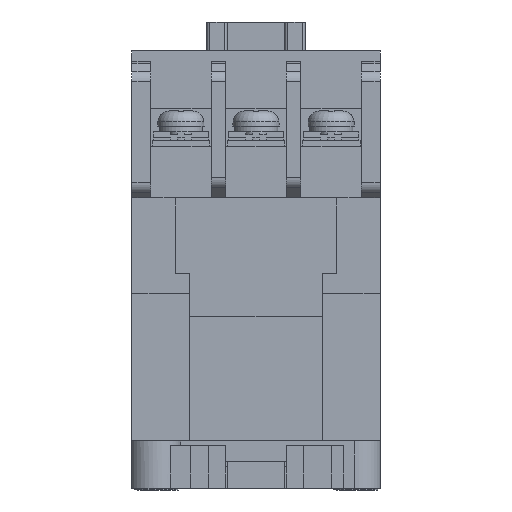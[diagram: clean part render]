
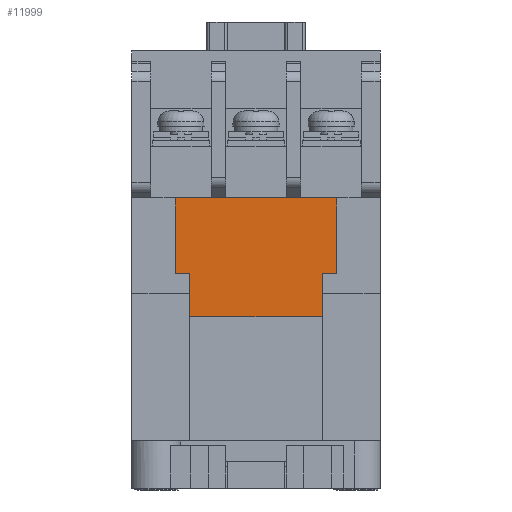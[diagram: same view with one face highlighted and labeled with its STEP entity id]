
A CAD part, front view. The second image highlights one B-rep face of the part: STEP entity #11999.
In plain terms, the highlighted planar face has unit normal (0, -1, 0).
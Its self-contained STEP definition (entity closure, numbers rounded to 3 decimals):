
#252 = VERTEX_POINT ( 'NONE', #14970 ) ;
#457 = LINE ( 'NONE', #21367, #3891 ) ;
#1327 = CARTESIAN_POINT ( 'NONE',  ( 11.5, -31.7, 32.45 ) ) ;
#1397 = VECTOR ( 'NONE', #4992, 1000. ) ;
#1469 = VECTOR ( 'NONE', #20368, 1000. ) ;
#1507 = DIRECTION ( 'NONE',  ( 0., -1., 0. ) ) ;
#1808 = VECTOR ( 'NONE', #5072, 1000. ) ;
#1819 = LINE ( 'NONE', #22755, #1469 ) ;
#2245 = EDGE_CURVE ( 'NONE', #16846, #252, #457, .T. ) ;
#2746 = VERTEX_POINT ( 'NONE', #20924 ) ;
#2990 = VECTOR ( 'NONE', #16144, 1000. ) ;
#3780 = ORIENTED_EDGE ( 'NONE', *, *, #8829, .T. ) ;
#3891 = VECTOR ( 'NONE', #18993, 1000. ) ;
#3905 = CARTESIAN_POINT ( 'NONE',  ( -11.5, -31.7, 24.95 ) ) ;
#4020 = AXIS2_PLACEMENT_3D ( 'NONE', #3905, #1507, #22447 ) ;
#4025 = DIRECTION ( 'NONE',  ( 1., 0., 0. ) ) ;
#4050 = ORIENTED_EDGE ( 'NONE', *, *, #18588, .F. ) ;
#4761 = LINE ( 'NONE', #18540, #2990 ) ;
#4992 = DIRECTION ( 'NONE',  ( 1., 0., 0. ) ) ;
#5072 = DIRECTION ( 'NONE',  ( 0., 0., -1. ) ) ;
#5832 = FACE_OUTER_BOUND ( 'NONE', #11949, .T. ) ;
#6267 = ORIENTED_EDGE ( 'NONE', *, *, #8363, .T. ) ;
#6299 = PLANE ( 'NONE',  #4020 ) ;
#6421 = CARTESIAN_POINT ( 'NONE',  ( -11.5, -31.7, 45.55 ) ) ;
#6738 = VECTOR ( 'NONE', #17786, 1000. ) ;
#7388 = CARTESIAN_POINT ( 'NONE',  ( -13.95, -31.7, 32.45 ) ) ;
#7470 = CARTESIAN_POINT ( 'NONE',  ( 11.5, -31.7, 24.95 ) ) ;
#8363 = EDGE_CURVE ( 'NONE', #2746, #13771, #1819, .T. ) ;
#8783 = CARTESIAN_POINT ( 'NONE',  ( 13.95, -31.7, 45.55 ) ) ;
#8806 = LINE ( 'NONE', #6421, #19160 ) ;
#8829 = EDGE_CURVE ( 'NONE', #13771, #18448, #4761, .T. ) ;
#8940 = VECTOR ( 'NONE', #17207, 1000. ) ;
#9021 = ORIENTED_EDGE ( 'NONE', *, *, #22513, .F. ) ;
#9868 = LINE ( 'NONE', #7470, #1808 ) ;
#11949 = EDGE_LOOP ( 'NONE', ( #15007, #18692, #4050, #9021, #22656, #16696, #6267, #3780 ) ) ;
#11999 = ADVANCED_FACE ( 'NONE', ( #5832 ), #6299, .T. ) ;
#12175 = LINE ( 'NONE', #7388, #1397 ) ;
#12394 = CARTESIAN_POINT ( 'NONE',  ( -11.5, -31.7, 24.95 ) ) ;
#12752 = CARTESIAN_POINT ( 'NONE',  ( 11.5, -31.7, 24.95 ) ) ;
#13095 = EDGE_CURVE ( 'NONE', #22740, #18448, #9868, .T. ) ;
#13771 = VERTEX_POINT ( 'NONE', #12394 ) ;
#14970 = CARTESIAN_POINT ( 'NONE',  ( -13.95, -31.7, 32.45 ) ) ;
#15007 = ORIENTED_EDGE ( 'NONE', *, *, #13095, .F. ) ;
#16144 = DIRECTION ( 'NONE',  ( 1., 0., 0. ) ) ;
#16696 = ORIENTED_EDGE ( 'NONE', *, *, #16698, .T. ) ;
#16698 = EDGE_CURVE ( 'NONE', #252, #2746, #21954, .T. ) ;
#16846 = VERTEX_POINT ( 'NONE', #22790 ) ;
#17207 = DIRECTION ( 'NONE',  ( 1., 0., 0. ) ) ;
#17786 = DIRECTION ( 'NONE',  ( 0., 0., -1. ) ) ;
#18448 = VERTEX_POINT ( 'NONE', #12752 ) ;
#18540 = CARTESIAN_POINT ( 'NONE',  ( -11.5, -31.7, 24.95 ) ) ;
#18579 = VERTEX_POINT ( 'NONE', #8783 ) ;
#18588 = EDGE_CURVE ( 'NONE', #18579, #20609, #22540, .T. ) ;
#18692 = ORIENTED_EDGE ( 'NONE', *, *, #22795, .T. ) ;
#18993 = DIRECTION ( 'NONE',  ( 0., 0., -1. ) ) ;
#19160 = VECTOR ( 'NONE', #4025, 1000. ) ;
#19567 = CARTESIAN_POINT ( 'NONE',  ( -13.95, -31.7, 32.45 ) ) ;
#20152 = CARTESIAN_POINT ( 'NONE',  ( 13.95, -31.7, 45.55 ) ) ;
#20368 = DIRECTION ( 'NONE',  ( 0., 0., -1. ) ) ;
#20609 = VERTEX_POINT ( 'NONE', #23228 ) ;
#20924 = CARTESIAN_POINT ( 'NONE',  ( -11.5, -31.7, 32.45 ) ) ;
#21367 = CARTESIAN_POINT ( 'NONE',  ( -13.95, -31.7, 45.55 ) ) ;
#21954 = LINE ( 'NONE', #19567, #8940 ) ;
#22447 = DIRECTION ( 'NONE',  ( 0., 0., -1. ) ) ;
#22513 = EDGE_CURVE ( 'NONE', #16846, #18579, #8806, .T. ) ;
#22540 = LINE ( 'NONE', #20152, #6738 ) ;
#22656 = ORIENTED_EDGE ( 'NONE', *, *, #2245, .T. ) ;
#22740 = VERTEX_POINT ( 'NONE', #1327 ) ;
#22755 = CARTESIAN_POINT ( 'NONE',  ( -11.5, -31.7, 24.95 ) ) ;
#22790 = CARTESIAN_POINT ( 'NONE',  ( -13.95, -31.7, 45.55 ) ) ;
#22795 = EDGE_CURVE ( 'NONE', #22740, #20609, #12175, .T. ) ;
#23228 = CARTESIAN_POINT ( 'NONE',  ( 13.95, -31.7, 32.45 ) ) ;
